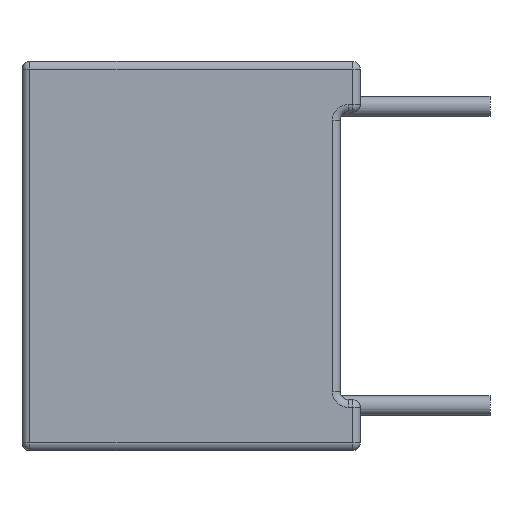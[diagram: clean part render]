
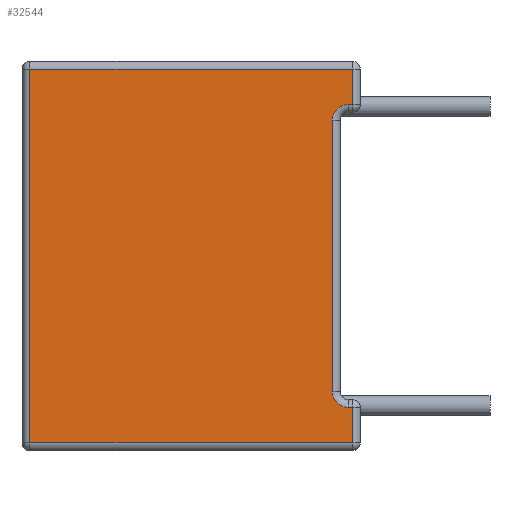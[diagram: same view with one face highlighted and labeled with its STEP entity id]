
A CAD part, left-side view. The second image highlights one B-rep face of the part: STEP entity #32544.
In plain terms, the highlighted planar face has unit normal (-1, 0, 0).
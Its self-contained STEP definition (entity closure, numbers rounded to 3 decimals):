
#32529 = EDGE_CURVE ( 'NONE', #32614, #32530, #60163, .T. ) ;
#32530 = VERTEX_POINT ( 'NONE', #60217 ) ;
#32531 = ORIENTED_EDGE ( 'NONE', *, *, #32532, .F. ) ;
#32532 = EDGE_CURVE ( 'NONE', #32533, #32530, #60200, .T. ) ;
#32533 = VERTEX_POINT ( 'NONE', #60195 ) ;
#32534 = ORIENTED_EDGE ( 'NONE', *, *, #32535, .T. ) ;
#32535 = EDGE_CURVE ( 'NONE', #32533, #32536, #60194, .T. ) ;
#32536 = VERTEX_POINT ( 'NONE', #60190 ) ;
#32537 = ORIENTED_EDGE ( 'NONE', *, *, #32538, .T. ) ;
#32538 = EDGE_CURVE ( 'NONE', #32536, #32539, #60189, .T. ) ;
#32539 = VERTEX_POINT ( 'NONE', #60185 ) ;
#32540 = VERTEX_POINT ( 'NONE', #60248 ) ;
#32544 = ADVANCED_FACE ( 'NONE', ( #60241 ), #60226, .F. ) ;
#32545 = EDGE_LOOP ( 'NONE', ( #32546, #32550, #32553, #32615, #32531, #32534, #32537, #32598, #32600, #32603 ) ) ;
#32546 = ORIENTED_EDGE ( 'NONE', *, *, #32547, .T. ) ;
#32547 = EDGE_CURVE ( 'NONE', #32548, #32549, #60225, .T. ) ;
#32548 = VERTEX_POINT ( 'NONE', #60276 ) ;
#32549 = VERTEX_POINT ( 'NONE', #60275 ) ;
#32550 = ORIENTED_EDGE ( 'NONE', *, *, #32551, .T. ) ;
#32551 = EDGE_CURVE ( 'NONE', #32549, #32552, #60274, .T. ) ;
#32552 = VERTEX_POINT ( 'NONE', #60270 ) ;
#32553 = ORIENTED_EDGE ( 'NONE', *, *, #32613, .F. ) ;
#32598 = ORIENTED_EDGE ( 'NONE', *, *, #32599, .T. ) ;
#32599 = EDGE_CURVE ( 'NONE', #32539, #32540, #60398, .T. ) ;
#32600 = ORIENTED_EDGE ( 'NONE', *, *, #32601, .T. ) ;
#32601 = EDGE_CURVE ( 'NONE', #32540, #32602, #60394, .T. ) ;
#32602 = VERTEX_POINT ( 'NONE', #60390 ) ;
#32603 = ORIENTED_EDGE ( 'NONE', *, *, #32604, .T. ) ;
#32604 = EDGE_CURVE ( 'NONE', #32602, #32548, #60388, .T. ) ;
#32613 = EDGE_CURVE ( 'NONE', #32614, #32552, #60411, .T. ) ;
#32614 = VERTEX_POINT ( 'NONE', #60406 ) ;
#32615 = ORIENTED_EDGE ( 'NONE', *, *, #32529, .T. ) ;
#60163 = LINE ( 'NONE', #60220, #60219 ) ;
#60185 = CARTESIAN_POINT ( 'NONE',  ( -9.9, -0.308, 4.75 ) ) ;
#60186 = DIRECTION ( 'NONE',  ( 0., 0., 1. ) ) ;
#60187 = VECTOR ( 'NONE', #60186, 1000. ) ;
#60188 = CARTESIAN_POINT ( 'NONE',  ( -9.9, -0.308, 4.95 ) ) ;
#60189 = LINE ( 'NONE', #60188, #60187 ) ;
#60190 = CARTESIAN_POINT ( 'NONE',  ( -9.9, -0.308, 3.85 ) ) ;
#60191 = DIRECTION ( 'NONE',  ( 0., -1., 0. ) ) ;
#60192 = VECTOR ( 'NONE', #60191, 1000. ) ;
#60193 = CARTESIAN_POINT ( 'NONE',  ( -9.9, 8.092, 3.85 ) ) ;
#60194 = LINE ( 'NONE', #60193, #60192 ) ;
#60195 = CARTESIAN_POINT ( 'NONE',  ( -9.9, -0.2, 3.85 ) ) ;
#60196 = DIRECTION ( 'NONE',  ( 0., 0., -1. ) ) ;
#60197 = DIRECTION ( 'NONE',  ( -1., 0., 0. ) ) ;
#60198 = CARTESIAN_POINT ( 'NONE',  ( -9.9, -0.2, 3.45 ) ) ;
#60199 = AXIS2_PLACEMENT_3D ( 'NONE', #60198, #60197, #60196 ) ;
#60200 = CIRCLE ( 'NONE', #60199, 0.4 ) ;
#60217 = CARTESIAN_POINT ( 'NONE',  ( -9.9, 0.2, 3.45 ) ) ;
#60218 = DIRECTION ( 'NONE',  ( 0., 0., 1. ) ) ;
#60219 = VECTOR ( 'NONE', #60218, 1000. ) ;
#60220 = CARTESIAN_POINT ( 'NONE',  ( -9.9, 0.2, 4.95 ) ) ;
#60221 = DIRECTION ( 'NONE',  ( 0., 0., -1. ) ) ;
#60222 = DIRECTION ( 'NONE',  ( 1., 0., 0. ) ) ;
#60223 = CARTESIAN_POINT ( 'NONE',  ( -9.9, 8.092, 4.95 ) ) ;
#60224 = AXIS2_PLACEMENT_3D ( 'NONE', #60223, #60222, #60221 ) ;
#60225 = LINE ( 'NONE', #60279, #60278 ) ;
#60226 = PLANE ( 'NONE',  #60224 ) ;
#60241 = FACE_OUTER_BOUND ( 'NONE', #32545, .T. ) ;
#60248 = CARTESIAN_POINT ( 'NONE',  ( -9.9, 7.892, 4.75 ) ) ;
#60270 = CARTESIAN_POINT ( 'NONE',  ( -9.9, -0.2, -3.85 ) ) ;
#60271 = DIRECTION ( 'NONE',  ( 0., 1., 0. ) ) ;
#60272 = VECTOR ( 'NONE', #60271, 1000. ) ;
#60273 = CARTESIAN_POINT ( 'NONE',  ( -9.9, 0., -3.85 ) ) ;
#60274 = LINE ( 'NONE', #60273, #60272 ) ;
#60275 = CARTESIAN_POINT ( 'NONE',  ( -9.9, -0.308, -3.85 ) ) ;
#60276 = CARTESIAN_POINT ( 'NONE',  ( -9.9, -0.308, -4.75 ) ) ;
#60277 = DIRECTION ( 'NONE',  ( 0., 0., 1. ) ) ;
#60278 = VECTOR ( 'NONE', #60277, 1000. ) ;
#60279 = CARTESIAN_POINT ( 'NONE',  ( -9.9, -0.308, -3.65 ) ) ;
#60385 = DIRECTION ( 'NONE',  ( 0., -1., 0. ) ) ;
#60386 = VECTOR ( 'NONE', #60385, 1000. ) ;
#60387 = CARTESIAN_POINT ( 'NONE',  ( -9.9, 8.092, -4.75 ) ) ;
#60388 = LINE ( 'NONE', #60387, #60386 ) ;
#60390 = CARTESIAN_POINT ( 'NONE',  ( -9.9, 7.892, -4.75 ) ) ;
#60391 = DIRECTION ( 'NONE',  ( 0., 0., -1. ) ) ;
#60392 = VECTOR ( 'NONE', #60391, 1000. ) ;
#60393 = CARTESIAN_POINT ( 'NONE',  ( -9.9, 7.892, -4.95 ) ) ;
#60394 = LINE ( 'NONE', #60393, #60392 ) ;
#60395 = DIRECTION ( 'NONE',  ( 0., 1., 0. ) ) ;
#60396 = VECTOR ( 'NONE', #60395, 1000. ) ;
#60397 = CARTESIAN_POINT ( 'NONE',  ( -9.9, 8.092, 4.75 ) ) ;
#60398 = LINE ( 'NONE', #60397, #60396 ) ;
#60406 = CARTESIAN_POINT ( 'NONE',  ( -9.9, 0.2, -3.45 ) ) ;
#60407 = DIRECTION ( 'NONE',  ( 0., 0., -1. ) ) ;
#60408 = DIRECTION ( 'NONE',  ( -1., 0., 0. ) ) ;
#60409 = CARTESIAN_POINT ( 'NONE',  ( -9.9, -0.2, -3.45 ) ) ;
#60410 = AXIS2_PLACEMENT_3D ( 'NONE', #60409, #60408, #60407 ) ;
#60411 = CIRCLE ( 'NONE', #60410, 0.4 ) ;
